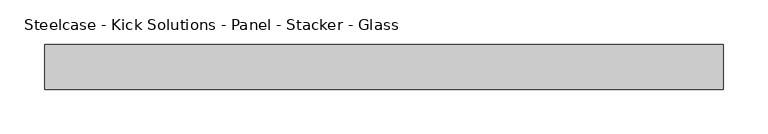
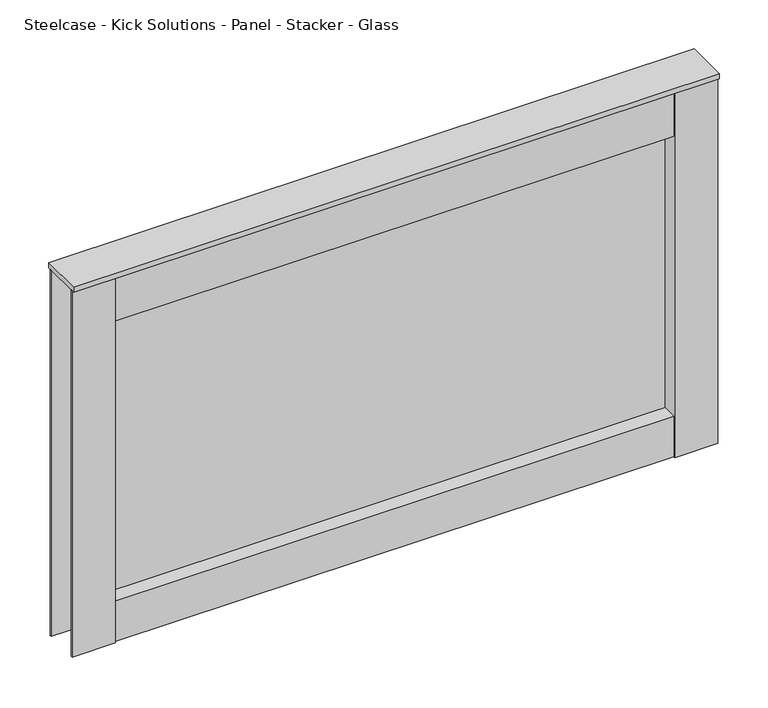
"""IFC4 building model written with IfcOpenShell, lengths in millimetres: furniture geometry, Steelcase - Kick Solutions - Panel - Stacker - Glass : 18H x 30W."""

from ifc_helpers import new_model, si_unit, frame, origin, place, context, project, spatial, polyline, outline, extrude, source, transform, mapped, element, save


def steelcase_kick_solutions_panel_stacker_glass_3b9feb08(model_context):
    return source(origin(), model_context, "Body", "SweptSolid", [
        extrude(outline(polyline([(711.2006661, -5.08), (711.2006661, -45.7200015), (50.8006646, -45.7200015), (50.8006646, -5.08), (711.2006661, -5.08)])), frame((0.0, 0.0, 1066.8), z_axis=(0.0, 0.0, 1.0), x_axis=(1.0, 0.0, 0.0)), (0.0, 0.0, 1.0), 50.6830951),
        extrude(outline(polyline([(711.2006661, -5.08), (711.2006661, -45.7200015), (50.8006646, -45.7200015), (50.8006646, -5.08), (711.2006661, -5.08)])), frame((0.0, 0.0, 1466.85), z_axis=(0.0, 0.0, 1.0), x_axis=(1.0, 0.0, 0.0)), (0.0, 0.0, 1.0), 57.15),
        extrude(outline(polyline([(50.8006646, -3.1743148), (50.8006646, -47.6243142), (0.0, -47.6243142), (0.0, -45.7200015), (47.7526646, -45.7200015), (47.7526646, -5.08), (0.0, -5.08), (0.0, -3.1743148), (50.8006646, -3.1743148)])), frame((0.0, 0.0, 1066.8), z_axis=(0.0, 0.0, 1.0), x_axis=(1.0, 0.0, 0.0)), (0.0, 0.0, 1.0), 457.2),
        extrude(outline(polyline([(711.2006661, -3.1743148), (762.0, -3.1743148), (762.0, -5.08), (714.2486661, -5.08), (714.2486661, -45.7200015), (762.0, -45.7200015), (762.0, -47.6243142), (711.2006661, -47.6243142), (711.2006661, -3.1743148)])), frame((0.0, 0.0, 1066.8), z_axis=(0.0, 0.0, 1.0), x_axis=(1.0, 0.0, 0.0)), (0.0, 0.0, 1.0), 457.2),
        extrude(outline(polyline([(711.2006661, -28.422537), (50.8006646, -28.422537), (50.8006646, -25.4), (711.2006661, -25.4), (711.2006661, -28.422537)])), frame((0.0, 0.0, 1117.4830951), z_axis=(0.0, 0.0, 1.0), x_axis=(1.0, 0.0, 0.0)), (0.0, 0.0, 1.0), 349.3669049),
        extrude(outline(polyline([(762.0, 0.0), (762.0, -50.8000015), (0.0, -50.8000015), (0.0, 0.0), (762.0, 0.0)])), frame((0.0, 0.0, 1524.0), z_axis=(0.0, 0.0, 1.0), x_axis=(1.0, 0.0, 0.0)), (0.0, 0.0, 1.0), 6.35),
    ])


if __name__ == "__main__":
    model = new_model("IFC4")
    model_context = context("Model", 3, world=origin())
    ifc_project = project(units=[si_unit("LENGTHUNIT", "METRE", prefix="MILLI")], contexts=[model_context])
    site = spatial("IfcSite", under=ifc_project)
    building = spatial("IfcBuilding", under=site)
    placement = place(None, origin())
    steelcase_kick_solutions_panel_stacker_glass_shape = steelcase_kick_solutions_panel_stacker_glass_3b9feb08(model_context)
    element("IfcFurniture", 1, ObjectType="Steelcase - Kick Solutions - Panel - Stacker - Glass : 18H x 30W", at=placement, inside=building, context=model_context, shape_type="MappedRepresentation", body=[
        mapped(steelcase_kick_solutions_panel_stacker_glass_shape, transform((0.0, 0.0, 0.0), x_axis=(1.0, 0.0, 0.0), y_axis=(0.0, 1.0, 0.0), z_axis=(0.0, 0.0, 1.0))),
    ])
    save(model, "model.ifc")
